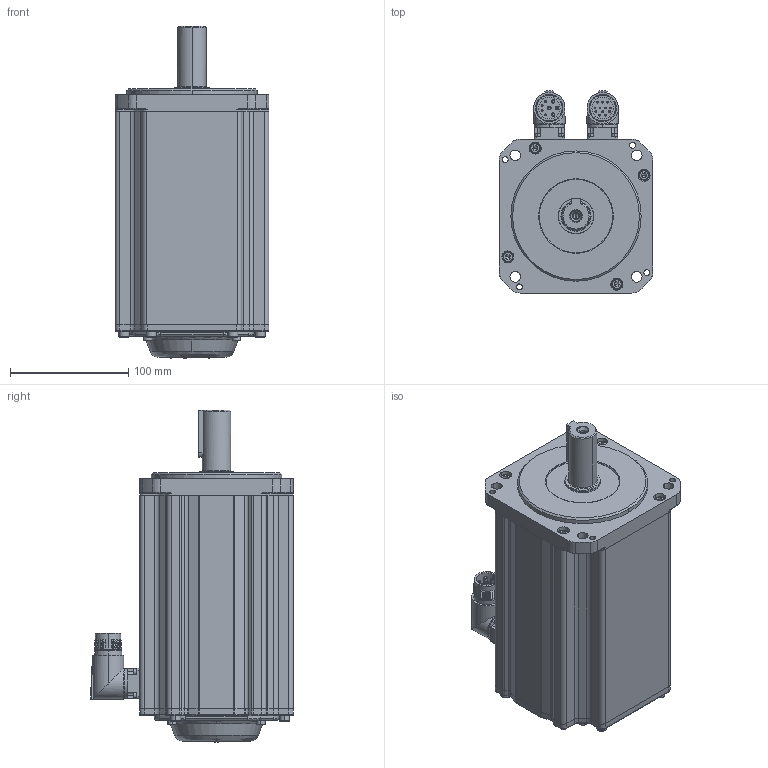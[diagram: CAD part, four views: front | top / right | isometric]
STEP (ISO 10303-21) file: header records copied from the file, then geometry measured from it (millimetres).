
FILE_DESCRIPTION (( 'STEP AP203' ), '1' );
FILE_NAME ('MC20-130-3M15-N182-1¡õPK-NNNN.STEP', '2025-05-04T14:08:54', ( '' ), ( '' ), 'SwSTEP 2.0', 'SolidWorks 2014', '' );
FILE_SCHEMA (( 'CONFIG_CONTROL_DESIGN' ));
Length unit declared in the file: millimetre
Products named in the file (1): MC20-130-3M15-N182-1¡õPK-NNNN
Bounding box: 130 x 171.35 x 280.3 mm (x, y, z)
Volume: 3249537.5 mm3; surface area: 300665.3 mm2
Topology: 28 solids, 28 shells, 2024 faces, 4803 edges, 2863 vertices
Faces by surface type: plane 735, cylinder 568, cone 357, bspline 204, torus 148, sphere 12
Entity records: 62226 total; most frequent: CARTESIAN_POINT 16865, DIRECTION 9530, ORIENTED_EDGE 9382, EDGE_CURVE 4691, AXIS2_PLACEMENT_3D 3694, VERTEX_POINT 2863, EDGE_LOOP 2270, VECTOR 2142
